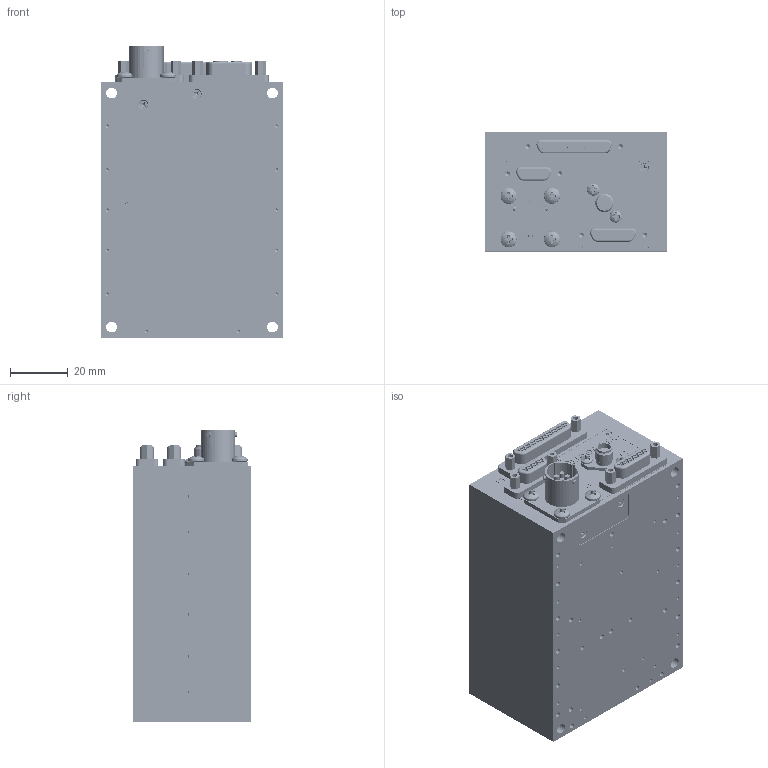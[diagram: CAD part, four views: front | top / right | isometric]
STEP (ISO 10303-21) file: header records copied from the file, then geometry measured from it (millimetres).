
FILE_DESCRIPTION (( 'STEP AP203' ), '1' );
FILE_NAME ('14AC_2-20-15.STEP', '2016-11-11T17:26:03', ( '' ), ( '' ), 'SwSTEP 2.0', 'SolidWorks 2016', '' );
FILE_SCHEMA (( 'CONFIG_CONTROL_DESIGN' ));
Length unit declared in the file: inch
Products named in the file (21): QSX-3BTX-2.5X3.5-PRGMCVR-B; GLENAIR-PLUG-MDM21-M8351303-C05N; MCMASTER-CARR-FLAT-HEAD-PHILLIPS-#2-56X0.750-91771A084_91771A084; MCMASTER-CARR-FLAT-HEAD-PHILLIPS-#0-80X0.125-91771A052_91771A052; QSX-3BTX-2.5X3.5-LSPA-A; QSX-3BTX-FWC-C; AMPHENOL-PT02H-8-4P; QSX-3BTX-2.5X3.5-SHLD-E; 14AC_2-20-15; GLENAIR-PLUG-MDM15-M8351303-B05N; QSX-3BTX-2.5X3.5-PAXFILTER-; GLENAIR-PLUG-MDM37-M8351303-F05N; QSX-3BTX-2.5X3.5-PAXDMP-B; RADIALL-SMA_TO_MMBX-FLANGEMOUNT-ADAPTER; QSX-3BTX-2.5X3.5-PAXDPH-A; QSX-2_56-JACKPOST-; QSX-3BTX-2.5X3.5-PAXDPC-B; MCMASTER-CARR-PAN-HEAD-PHILLIPS-#4-40X0.375-91772A108_91772A108; QSX-3BTX-2.5X3.5-PAXFF-G; MCMASTER-CARR-PAN-HEAD-PHILLIPS-#2-56X0.15625-91772A073_91772A073; MCMASTER-CARR-FLAT-HEAD-PHILLIPS-#2-56X1.5-91771A267_91771A267
Assembly tree (47 placements, depth 2):
  14AC_2-20-15
    QSX-3BTX-2.5X3.5-LSPA-A
    QSX-3BTX-2.5X3.5-SHLD-E
    QSX-3BTX-2.5X3.5-PAXFILTER-
    QSX-3BTX-2.5X3.5-PAXDMP-B
    QSX-3BTX-2.5X3.5-PAXDPH-A
    QSX-3BTX-2.5X3.5-PAXDPC-B
    QSX-3BTX-2.5X3.5-PAXFF-G
    MCMASTER-CARR-FLAT-HEAD-PHILLIPS-#2-56X1.5-91771A267_91771A267  x5
    MCMASTER-CARR-FLAT-HEAD-PHILLIPS-#2-56X0.750-91771A084_91771A084  x5
    QSX-3BTX-2.5X3.5-PRGMCVR-B  x3
    MCMASTER-CARR-FLAT-HEAD-PHILLIPS-#0-80X0.125-91771A052_91771A052  x9
    AMPHENOL-PT02H-8-4P
    GLENAIR-PLUG-MDM15-M8351303-B05N
    GLENAIR-PLUG-MDM37-M8351303-F05N
    RADIALL-SMA_TO_MMBX-FLANGEMOUNT-ADAPTER
    QSX-2_56-JACKPOST-  x6
    MCMASTER-CARR-PAN-HEAD-PHILLIPS-#4-40X0.375-91772A108_91772A108  x4
    MCMASTER-CARR-PAN-HEAD-PHILLIPS-#2-56X0.15625-91772A073_91772A073  x2
    GLENAIR-PLUG-MDM21-M8351303-C05N
    QSX-3BTX-FWC-C
Bounding box: 63.5 x 41.26 x 101.45 mm (x, y, z)
Volume: 121900.9 mm3; surface area: 108157.3 mm2
Topology: 48 solids, 48 shells, 10499 faces, 27332 edges, 17177 vertices
Faces by surface type: cylinder 5027, cone 3205, plane 1936, bspline 169, torus 146, sphere 16
Entity records: 174596 total; most frequent: CARTESIAN_POINT 44565, ORIENTED_EDGE 26850, DIRECTION 26442, EDGE_CURVE 13425, AXIS2_PLACEMENT_3D 9847, VERTEX_POINT 8721, VECTOR 6748, LINE 6748
